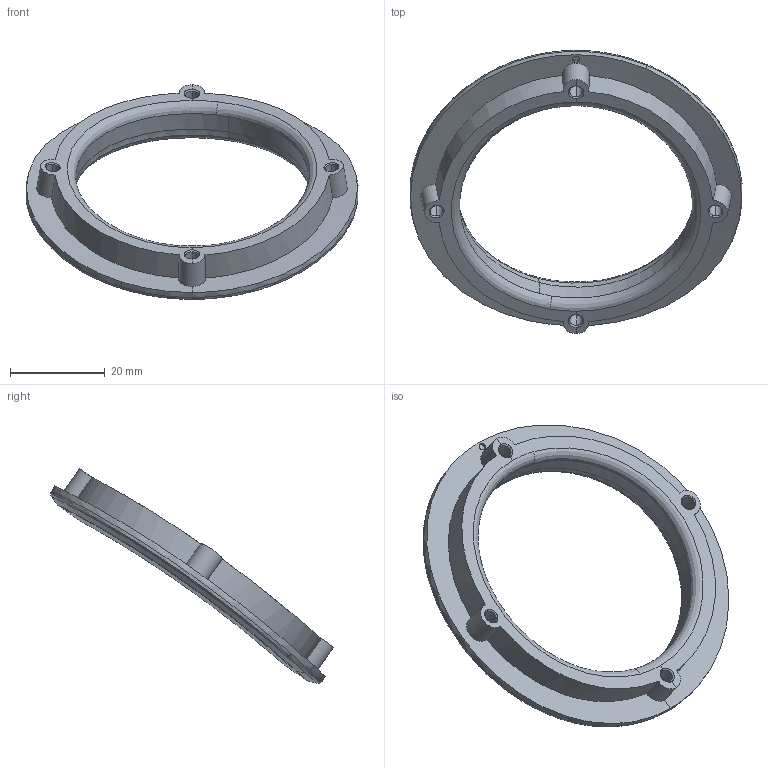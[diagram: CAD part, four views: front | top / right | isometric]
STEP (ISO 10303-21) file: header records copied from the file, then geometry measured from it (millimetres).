
FILE_DESCRIPTION (( 'STEP AP203' ), '1' );
FILE_NAME ('JOG EYELET.STEP', '2025-05-22T09:26:17', ( 'user' ), ( '' ), 'SwSTEP 2.0', 'SolidWorks 2024', '' );
FILE_SCHEMA (( 'CONFIG_CONTROL_DESIGN' ));
Length unit declared in the file: millimetre
Products named in the file (1): JOG EYELET
Bounding box: 70.17 x 59.83 x 45.34 mm (x, y, z)
Volume: 10245.6 mm3; surface area: 6858.8 mm2
Topology: 1 solids, 1 shells, 53 faces, 171 edges, 120 vertices
Faces by surface type: bspline 32, cylinder 10, cone 6, plane 5
Entity records: 14869 total; most frequent: CARTESIAN_POINT 13618, ORIENTED_EDGE 342, EDGE_CURVE 171, B_SPLINE_CURVE_WITH_KNOTS 134, VERTEX_POINT 120, DIRECTION 99, EDGE_LOOP 55, ADVANCED_FACE 53
